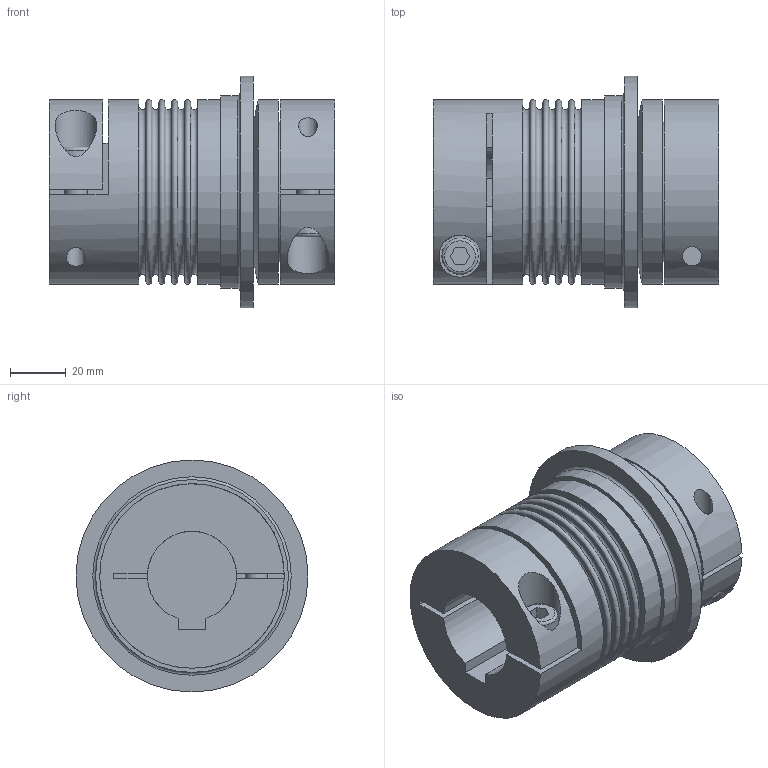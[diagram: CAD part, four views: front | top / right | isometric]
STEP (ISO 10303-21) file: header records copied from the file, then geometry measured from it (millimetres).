
FILE_DESCRIPTION(/* description */ ('STEP AP214'),/* implementation_level */ '2;1');
FILE_NAME(/* name */ 'C:\Diequa Files\DieQua Coupling\TB2\STP\TB2.60.102.F.#.#.stp',/* time_stamp */ '2019-04-26T10:42:38-05:00',/* author */ ('DiequaCAD'),/* organization */ (''),/* preprocessor_version */ 'ST-DEVELOPER v18',/* originating_system */ 'Autodesk Inventor 2020',/* authorisation */ ' ');
FILE_SCHEMA (('AP203_CONFIGURATION_CONTROLLED_3D_DESIGN_OF_MECHANICAL_PARTS_AND_ASSEMBLIES_MIM_LF { 1 0 10303 203 3 1 4 }','AUTOMOTIVE_DESIGN { 1 0 10303 214 3 1 1 }'));
Length unit declared in the file: millimetre
Products named in the file (1): TB2.60.102.F.#.#
Bounding box: 102 x 83 x 83 mm (x, y, z)
Volume: 289462.7 mm3; surface area: 56029.6 mm2
Topology: 1 solids, 1 shells, 90 faces, 212 edges, 148 vertices
Faces by surface type: plane 57, cylinder 20, torus 12, cone 1
Full cylindrical faces by diameter (mm): 6.8 x2, 8 x2, 9 x2, 13 x2, 15 x2, 50 x1, 66 x3, 69 x1, 83 x1
Entity records: 2857 total; most frequent: CARTESIAN_POINT 603, DIRECTION 491, ORIENTED_EDGE 424, EDGE_CURVE 212, AXIS2_PLACEMENT_3D 194, VERTEX_POINT 148, EDGE_LOOP 118, LINE 103
